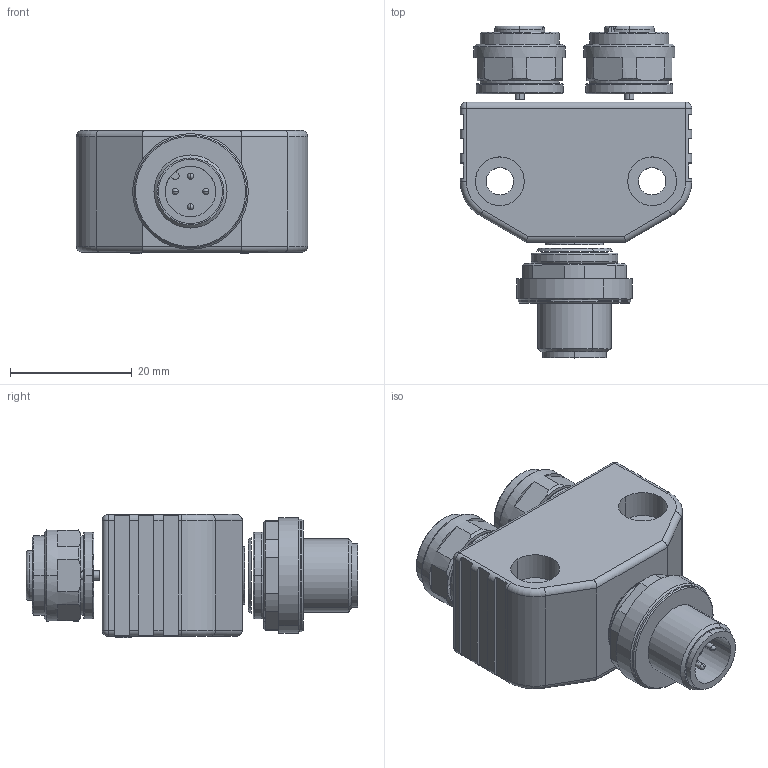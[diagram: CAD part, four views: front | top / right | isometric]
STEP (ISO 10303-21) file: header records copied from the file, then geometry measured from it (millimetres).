
FILE_DESCRIPTION (( 'STEP AP203' ), '1' );
FILE_NAME ('6930560 VB2-FSM4.4-2FKM4.STEP', '2017-07-21T06:09:46', ( 'User' ), ( '' ), 'SwSTEP 2.0', 'SolidWorks 2016', '' );
FILE_SCHEMA (( 'CONFIG_CONTROL_DESIGN' ));
Length unit declared in the file: millimetre
Products named in the file (1): 6930560 VB2-FSM4.4-2FKM4
Bounding box: 38 x 54.5 x 20.2 mm (x, y, z)
Surface area: 8435.3 mm2 (no closed solid volume)
Topology: 0 solids, 16 shells, 454 faces, 1256 edges, 822 vertices
Faces by surface type: plane 184, cylinder 172, cone 38, bspline 26, torus 22, sphere 12
Entity records: 15122 total; most frequent: CARTESIAN_POINT 3511, DIRECTION 2467, ORIENTED_EDGE 2311, EDGE_CURVE 1236, AXIS2_PLACEMENT_3D 926, VERTEX_POINT 814, LINE 615, VECTOR 615
